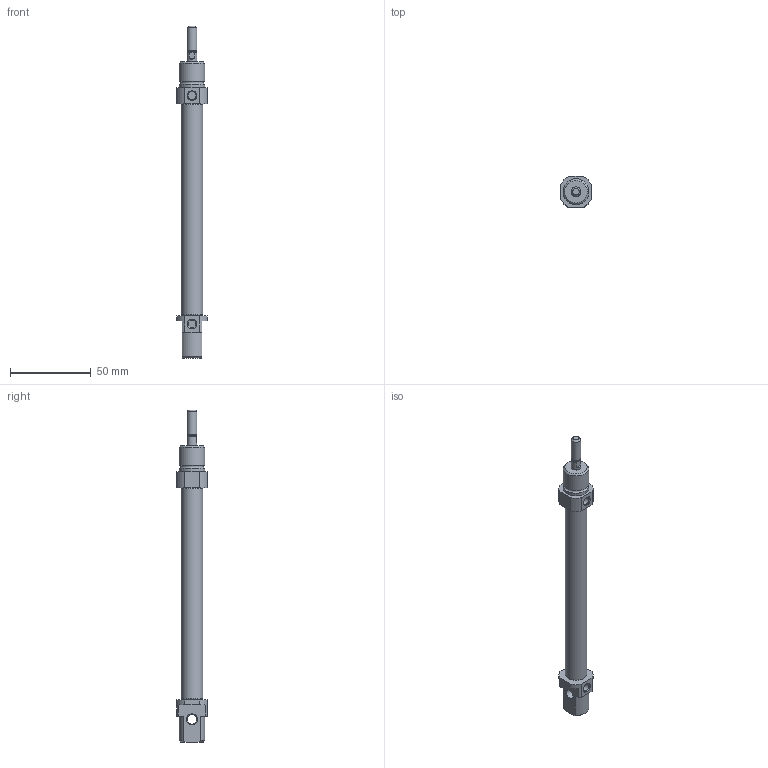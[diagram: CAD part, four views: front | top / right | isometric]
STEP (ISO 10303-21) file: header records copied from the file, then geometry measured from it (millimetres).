
FILE_DESCRIPTION((''),'2;1');
FILE_NAME('I:\3D電子目錄\氣缸\SDA\SDA12\SDA12\SDA12x100.stp','2007-08-06T10:28:08',('Administrator'),(''),'Autodesk Inventor 2008','Autodesk Inventor 2008','');
FILE_SCHEMA(('AUTOMOTIVE_DESIGN { 1 0 10303 214 1 1 1 1 }'));
Length unit declared in the file: millimetre
Products named in the file (1): SDA12X100
Bounding box: 19 x 19 x 205 mm (x, y, z)
Volume: 29466 mm3; surface area: 10159.3 mm2
Topology: 1 solids, 1 shells, 60 faces, 138 edges, 88 vertices
Faces by surface type: plane 26, cylinder 19, cone 12, bspline 2, torus 1
Full cylindrical faces by diameter (mm): 4.6 x1, 5 x2, 6 x3, 13.2 x1, 16 x2
Entity records: 1626 total; most frequent: CARTESIAN_POINT 289, DIRECTION 286, ORIENTED_EDGE 238, EDGE_CURVE 119, AXIS2_PLACEMENT_3D 116, EDGE_LOOP 88, VERTEX_POINT 87, FACE_OUTER_BOUND 60
